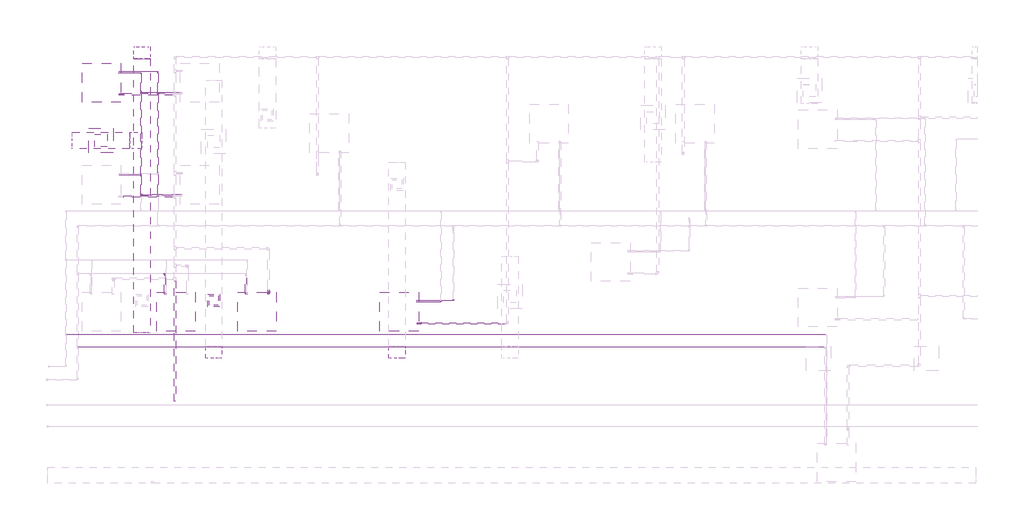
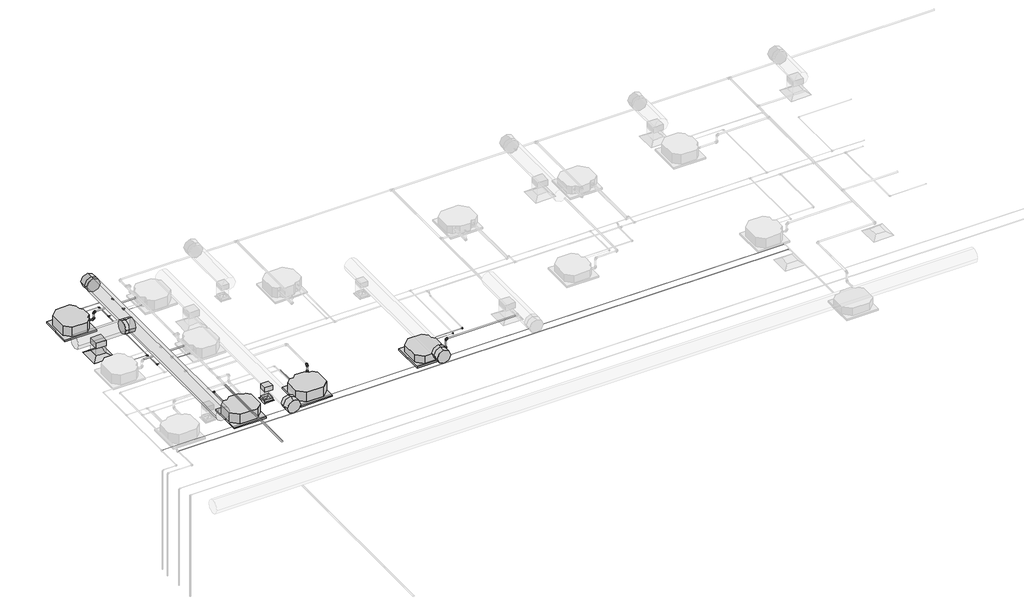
# One storey, part 14 of 22: 30 pipe fittings, 27 pipe segments, 6 duct fittings, 4 duct segments, 4 proxies, 2 air terminals.
"""IFC4 building model written with IfcOpenShell, lengths in millimetres."""

from ifc_helpers import new_model, si_unit, point, frame, frame_2d, origin, place, context, project, spatial, polyline, circle_curve, trimmed, segment, composite_curve, outline, extrude, transform, mapped, element, save
from components import air_terminal_ff221211, sdq3535_a75e83f7, mechanical_equipment_77aa587a, mechanical_equipment_53173f38, duct_fitting_570af4ff, duct_fitting_2eb95573, duct_fitting_f399081e, duct_fitting_95c1ddea, pipe_fitting_144f4440, pipe_fitting_c900cfc2, pipe_fitting_16c020f5, pipe_fitting_afe73776, pipe_fitting_09966660, pipe_fitting_64d0e8e9, pipe_fitting_501e5992, pipe_fitting_59d1f3e3, pipe_fitting_648138cd, pipe_fitting_58ab9b66, pipe_fitting_da16c1b3, pipe_fitting_af483176, pipe_fitting_5a6d96d3

model = new_model("IFC4")

# Units and contexts
model_context = context("Model", 3, world=origin())
ifc_project = project(units=[si_unit("LENGTHUNIT", "METRE", prefix="MILLI")], contexts=[model_context])

# Site, building, storey
site = spatial("IfcSite", under=ifc_project)
building = spatial("IfcBuilding", under=site)
storey = spatial("IfcBuildingStorey", under=building, Name="Nível 2", Elevation=3880.0)

# Air terminals
placement = place(None, origin())
air_terminal_shape = air_terminal_ff221211(model_context)
element("IfcAirTerminal", 1, ObjectType="M_Difusor de retorno : 600 x 600 Face 300 x 300 Conexão", at=placement, inside=storey, context=model_context, shape_type="MappedRepresentation", body=[
    mapped(air_terminal_shape, transform((-1510.2071407, 7465.213936, 6880.0), x_axis=(0.0, 1.0, 0.0), y_axis=(-1.0, 0.0, 0.0), z_axis=(0.0, 0.0, 1.0))),
])
sdq3535_shape = sdq3535_a75e83f7(model_context)
element("IfcAirTerminal", 2, ObjectType="11 - Difusor Quadrado : SDQ3535", at=placement, inside=storey, context=model_context, shape_type="MappedRepresentation", body=[
    mapped(sdq3535_shape, transform((1245.4274207, 3554.0761866, 6880.0), x_axis=(1.0, 0.0, 0.0), y_axis=(0.0, 1.0, 0.0), z_axis=(0.0, 0.0, 1.0))),
])

# Proxies
mechanical_equipment_shape = mechanical_equipment_77aa587a(model_context)
element("IfcBuildingElementProxy", 3, Name="Midea_VRF_Indoor_4-way Cassette_MI-56(71,80)Q4_DHN1-D (2nd DC) : MI2-71Q4DHN1", ObjectType="Midea_VRF_Indoor_4-way Cassette_MI-56(71,80)Q4_DHN1-D (2nd DC) : MI2-71Q4DHN1", at=placement, inside=storey, context=model_context, shape_type="MappedRepresentation", body=[
    mapped(mechanical_equipment_shape, transform((5779.8254008, 3280.8653729, 6880.0), x_axis=(1.0, 0.0, 0.0), y_axis=(0.0, 1.0, 0.0), z_axis=(0.0, 0.0, 1.0))),
])
mechanical_equipment_2_shape = mechanical_equipment_53173f38(model_context)
element("IfcBuildingElementProxy", 4, Name="Midea_VRF_Indoor_4-way Cassette_MI-90(100,112,140)Q4_DHN1-D (2nd DC) : MI2-140Q4DHN1", ObjectType="Midea_VRF_Indoor_4-way Cassette_MI-90(100,112,140)Q4_DHN1-D (2nd DC) : MI2-140Q4DHN1", at=placement, inside=storey, context=model_context, shape_type="MappedRepresentation", body=[
    mapped(mechanical_equipment_2_shape, transform((324.1415592, 3280.8653729, 6880.0), x_axis=(0.0, 1.0, 0.0), y_axis=(-1.0, 0.0, 0.0), z_axis=(0.0, 0.0, 1.0))),
])
element("IfcBuildingElementProxy", 5, Name="Midea_VRF_Indoor_4-way Cassette_MI-90(100,112,140)Q4_DHN1-D (2nd DC) : MI2-140Q4DHN1", ObjectType="Midea_VRF_Indoor_4-way Cassette_MI-90(100,112,140)Q4_DHN1-D (2nd DC) : MI2-140Q4DHN1", at=placement, inside=storey, context=model_context, shape_type="MappedRepresentation", body=[
    mapped(mechanical_equipment_2_shape, transform((2304.1415592, 3280.8653729, 6880.0), x_axis=(0.0, 1.0, 0.0), y_axis=(-1.0, 0.0, 0.0), z_axis=(0.0, 0.0, 1.0))),
])
element("IfcBuildingElementProxy", 6, Name="Midea_VRF_Indoor_4-way Cassette_MI-90(100,112,140)Q4_DHN1-D (2nd DC) : MI2-140Q4DHN1", ObjectType="Midea_VRF_Indoor_4-way Cassette_MI-90(100,112,140)Q4_DHN1-D (2nd DC) : MI2-140Q4DHN1", at=placement, inside=storey, context=model_context, shape_type="MappedRepresentation", body=[
    mapped(mechanical_equipment_2_shape, transform((-1495.8584408, 8880.8653729, 6880.0), x_axis=(1.0, 0.0, 0.0), y_axis=(0.0, 1.0, 0.0), z_axis=(0.0, 0.0, 1.0))),
])

# Duct fittings
duct_fitting_shape = duct_fitting_570af4ff(model_context)
element("IfcDuctFitting", 7, ObjectType="M_Encaixe de duto retangular : Padrão", at=placement, inside=storey, context=model_context, shape_type="MappedRepresentation", body=[
    mapped(duct_fitting_shape, transform((1245.4274207, 3554.0761866, 7301.0), x_axis=(0.0, 0.0, -1.0), y_axis=(0.0, -1.0, 0.0), z_axis=(-1.0, 0.0, 0.0))),
])
duct_fitting_2_shape = duct_fitting_2eb95573(model_context)
element("IfcDuctFitting", 8, ObjectType="M_Encaixe de duto redondo : Padrão", at=placement, inside=storey, context=model_context, shape_type="MappedRepresentation", body=[
    mapped(duct_fitting_2_shape, transform((-509.4071407, 9569.8368648, 7501.0), x_axis=(0.0, -1.0, 0.0), y_axis=(-1.0, 0.0, 0.0), z_axis=(0.0, 0.0, -1.0))),
])
duct_fitting_3_shape = duct_fitting_f399081e(model_context)
element("IfcDuctFitting", 9, ObjectType="M_Encaixe de duto redondo : Padrão", at=placement, inside=storey, context=model_context, shape_type="MappedRepresentation", body=[
    mapped(duct_fitting_3_shape, transform((5726.1234834, 2337.3539749, 7501.0), x_axis=(0.0, 1.0, 0.0), y_axis=(1.0, 0.0, 0.0), z_axis=(0.0, 0.0, -1.0))),
])
element("IfcDuctFitting", 10, ObjectType="M_Encaixe de duto redondo : Padrão", at=placement, inside=storey, context=model_context, shape_type="MappedRepresentation", body=[
    mapped(duct_fitting_3_shape, transform((1245.4274207, 2337.3539749, 7501.0), x_axis=(0.0, 1.0, 0.0), y_axis=(1.0, 0.0, 0.0), z_axis=(0.0, 0.0, -1.0))),
])
element("IfcDuctFitting", 11, ObjectType="M_Encaixe de duto redondo : Padrão", at=placement, inside=storey, context=model_context, shape_type="MappedRepresentation", body=[
    mapped(duct_fitting_3_shape, transform((-709.4071407, 7465.213936, 7501.0), x_axis=(-1.0, 0.0, 0.0), y_axis=(0.0, 1.0, 0.0), z_axis=(0.0, 0.0, -1.0))),
])
duct_fitting_4_shape = duct_fitting_95c1ddea(model_context)
element("IfcDuctFitting", 12, ObjectType="M_Encaixe de duto retangular : Padrão", at=placement, inside=storey, context=model_context, shape_type="MappedRepresentation", body=[
    mapped(duct_fitting_4_shape, transform((-1510.2071407, 7465.213936, 7301.0), x_axis=(0.0, 0.0, -1.0), y_axis=(1.0, 0.0, 0.0), z_axis=(0.0, -1.0, 0.0))),
])

# Duct segments
element("IfcDuctSegment", 13, ObjectType="Torneiras / Raio curto", at=placement, inside=storey, context=model_context, shape_type="SweptSolid", body=[
    extrude(outline(composite_curve([segment(trimmed(circle_curve(frame_2d((7501.0, -509.4071407)), 200.0), [point((7501.0, -709.4071407))], [point((7301.0, -509.4071407))], False, "CARTESIAN"), True, "CONTINUOUS"), segment(trimmed(circle_curve(frame_2d((7501.0, -509.4071407)), 200.0), [point((7301.0, -509.4071407))], [point((7501.0, -309.4071407))], False, "CARTESIAN"), True, "CONTINUOUS"), segment(trimmed(circle_curve(frame_2d((7501.0, -509.4071407)), 200.0), [point((7501.0, -309.4071407))], [point((7701.0, -509.4071407))], False, "CARTESIAN"), True, "CONTINUOUS"), segment(trimmed(circle_curve(frame_2d((7501.0, -509.4071407)), 200.0), [point((7701.0, -509.4071407))], [point((7501.0, -709.4071407))], False, "CARTESIAN"), True, "CONTINUOUS")], self_intersect=False)), frame((0.0, 2769.8368648, 0.0), z_axis=(0.0, 1.0, 0.0), x_axis=(0.0, 0.0, 1.0)), (0.0, 0.0, 1.0), 6698.4),
])
element("IfcDuctSegment", 14, ObjectType="Raios cotovelos / torneiras", at=placement, inside=storey, context=model_context, shape_type="SweptSolid", body=[
    extrude(outline(polyline([(1357.9274207, 3666.5761866), (1357.9274207, 3441.5761866), (1132.9274207, 3441.5761866), (1132.9274207, 3666.5761866), (1357.9274207, 3666.5761866)])), frame((0.0, 0.0, 6885.0), z_axis=(0.0, 0.0, 1.0), x_axis=(1.0, 0.0, 0.0)), (0.0, 0.0, 1.0), 314.4),
])
element("IfcDuctSegment", 15, ObjectType="Torneiras / Raio curto", at=placement, inside=storey, context=model_context, shape_type="SweptSolid", body=[
    extrude(outline(composite_curve([segment(trimmed(circle_curve(frame_2d((7465.213936, 7501.0)), 200.0), [point((7665.213936, 7501.0))], [point((7465.213936, 7301.0))], False, "CARTESIAN"), True, "CONTINUOUS"), segment(trimmed(circle_curve(frame_2d((7465.213936, 7501.0)), 200.0), [point((7465.213936, 7301.0))], [point((7265.213936, 7501.0))], False, "CARTESIAN"), True, "CONTINUOUS"), segment(trimmed(circle_curve(frame_2d((7465.213936, 7501.0)), 200.0), [point((7265.213936, 7501.0))], [point((7465.213936, 7701.0))], False, "CARTESIAN"), True, "CONTINUOUS"), segment(trimmed(circle_curve(frame_2d((7465.213936, 7501.0)), 200.0), [point((7465.213936, 7701.0))], [point((7665.213936, 7501.0))], False, "CARTESIAN"), True, "CONTINUOUS")], self_intersect=False)), frame((-2209.4071407, 0.0, 0.0), z_axis=(1.0, 0.0, 0.0), x_axis=(0.0, 1.0, 0.0)), (0.0, 0.0, 1.0), 1398.4),
])
element("IfcDuctSegment", 16, ObjectType="Raios cotovelos / torneiras", at=placement, inside=storey, context=model_context, shape_type="SweptSolid", body=[
    extrude(outline(polyline([(-1660.2071407, 7615.213936), (-1360.2071407, 7615.213936), (-1360.2071407, 7315.213936), (-1660.2071407, 7315.213936), (-1660.2071407, 7615.213936)])), frame((0.0, 0.0, 6981.6), z_axis=(0.0, 0.0, 1.0), x_axis=(1.0, 0.0, 0.0)), (0.0, 0.0, 1.0), 217.8),
])

# Pipe fittings
pipe_fitting_shape = pipe_fitting_144f4440(model_context)
element("IfcPipeFitting", 17, ObjectType="Cotovelo - PVC - CW : Padrão", at=placement, inside=storey, context=model_context, shape_type="MappedRepresentation", body=[
    mapped(pipe_fitting_shape, transform((6275.2251483, 2995.8653729, 7062.3085101), x_axis=(1.0, 0.0, 0.0), y_axis=(0.0, 0.0, 1.0), z_axis=(0.0, -1.0, 0.0))),
])
element("IfcPipeFitting", 18, ObjectType="Cotovelo - PVC - CW : Padrão", at=placement, inside=storey, context=model_context, shape_type="MappedRepresentation", body=[
    mapped(pipe_fitting_shape, transform((6275.2251483, 2995.8653729, 7360.6313654), x_axis=(0.0, 0.0, 1.0), y_axis=(1.0, 0.0, 0.0), z_axis=(0.0, 1.0, 0.0))),
])
element("IfcPipeFitting", 19, ObjectType="Cotovelo - PVC - CW : Padrão", at=placement, inside=storey, context=model_context, shape_type="MappedRepresentation", body=[
    mapped(pipe_fitting_shape, transform((-1000.4586934, 8595.8653729, 7132.3085101), x_axis=(1.0, 0.0, 0.0), y_axis=(0.0, 0.0, 1.0), z_axis=(0.0, -1.0, 0.0))),
])
element("IfcPipeFitting", 20, ObjectType="Cotovelo - PVC - CW : Padrão", at=placement, inside=storey, context=model_context, shape_type="MappedRepresentation", body=[
    mapped(pipe_fitting_shape, transform((-1000.4586934, 8595.8653729, 7360.6313654), x_axis=(0.0, 0.0, 1.0), y_axis=(1.0, 0.0, 0.0), z_axis=(0.0, 1.0, 0.0))),
])
element("IfcPipeFitting", 21, ObjectType="Cotovelo - PVC - CW : Padrão", at=placement, inside=storey, context=model_context, shape_type="MappedRepresentation", body=[
    mapped(pipe_fitting_shape, transform((2589.1415592, 3776.2651204, 7132.3085101), x_axis=(0.0, 1.0, 0.0), y_axis=(0.0, 0.0, 1.0), z_axis=(1.0, 0.0, 0.0))),
])
element("IfcPipeFitting", 22, ObjectType="Cotovelo - PVC - CW : Padrão", at=placement, inside=storey, context=model_context, shape_type="MappedRepresentation", body=[
    mapped(pipe_fitting_shape, transform((2589.1415592, 3776.2651204, 7360.6313654), x_axis=(0.0, 0.0, 1.0), y_axis=(0.0, 1.0, 0.0), z_axis=(-1.0, 0.0, 0.0))),
])
pipe_fitting_2_shape = pipe_fitting_c900cfc2(model_context)
element("IfcPipeFitting", 23, ObjectType="Bucha de redução reta - Soldada - CU : Padrão", at=placement, inside=storey, context=model_context, shape_type="MappedRepresentation", body=[
    mapped(pipe_fitting_2_shape, transform((6204.8254008, 3554.0761866, 7062.3085101), x_axis=(1.0, 0.0, 0.0), y_axis=(0.0, 1.0, 0.0), z_axis=(0.0, 0.0, 1.0))),
])
element("IfcPipeFitting", 24, ObjectType="Bucha de redução reta - Soldada - CU : Padrão", at=placement, inside=storey, context=model_context, shape_type="MappedRepresentation", body=[
    mapped(pipe_fitting_2_shape, transform((-1070.8584408, 9154.0761866, 7132.3085101), x_axis=(1.0, 0.0, 0.0), y_axis=(0.0, 1.0, 0.0), z_axis=(0.0, 0.0, 1.0))),
])
element("IfcPipeFitting", 25, ObjectType="Bucha de redução reta - Soldada - CU : Padrão", at=placement, inside=storey, context=model_context, shape_type="MappedRepresentation", body=[
    mapped(pipe_fitting_2_shape, transform((2030.9307455, 3705.8653729, 7132.3085101), x_axis=(0.0, 1.0, 0.0), y_axis=(-1.0, 0.0, 0.0), z_axis=(0.0, 0.0, 1.0))),
])
pipe_fitting_3_shape = pipe_fitting_16c020f5(model_context)
element("IfcPipeFitting", 26, ObjectType="Cotovelo - Soldado - CU : Padrão", at=placement, inside=storey, context=model_context, shape_type="MappedRepresentation", body=[
    mapped(pipe_fitting_3_shape, transform((-114.8972501, 9154.0761866, 7132.3), x_axis=(0.0, 1.0, 0.0), y_axis=(-0.9999999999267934, 0.0, 1.2100135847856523e-05), z_axis=(1.2100135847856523e-05, 0.0, 0.9999999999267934))),
])
element("IfcPipeFitting", 27, ObjectType="Cotovelo - Soldado - CU : Padrão", at=placement, inside=storey, context=model_context, shape_type="MappedRepresentation", body=[
    mapped(pipe_fitting_3_shape, transform((7104.8254008, 3554.0761866, 7062.3), x_axis=(0.9999999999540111, 0.0, -9.590509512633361e-06), y_axis=(0.0, 1.0000000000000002, 0.0), z_axis=(9.590509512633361e-06, 0.0, 0.9999999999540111))),
])
pipe_fitting_4_shape = pipe_fitting_afe73776(model_context)
element("IfcPipeFitting", 28, ObjectType="Bucha de redução reta - Soldada - CU : Padrão", at=placement, inside=storey, context=model_context, shape_type="MappedRepresentation", body=[
    mapped(pipe_fitting_4_shape, transform((-84.7367501, 8607.6545593, 7132.3003089), x_axis=(0.9999999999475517, 0.0, 1.0241909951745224e-05), y_axis=(0.0, 1.0000000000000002, 0.0), z_axis=(-1.0241909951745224e-05, 0.0, 0.9999999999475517))),
])
element("IfcPipeFitting", 29, ObjectType="Bucha de redução reta - Soldada - CU : Padrão", at=placement, inside=storey, context=model_context, shape_type="MappedRepresentation", body=[
    mapped(pipe_fitting_4_shape, transform((50.9307455, 4182.6905207, 7132.3003013), x_axis=(0.0, -0.9999999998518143, 1.721544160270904e-05), y_axis=(1.0, 0.0, 0.0), z_axis=(0.0, 1.721544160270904e-05, 0.9999999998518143))),
])
pipe_fitting_5_shape = pipe_fitting_09966660(model_context)
element("IfcPipeFitting", 30, ObjectType="Tê - Soldado - CU : Padrão", at=placement, inside=storey, context=model_context, shape_type="MappedRepresentation", body=[
    mapped(pipe_fitting_5_shape, transform((-114.8972501, 8607.6545593, 7132.3), x_axis=(0.0, -1.0, 0.0), y_axis=(-0.9999999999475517, 0.0, -1.0241909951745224e-05), z_axis=(1.0241909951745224e-05, 0.0, -0.9999999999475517))),
])
element("IfcPipeFitting", 31, ObjectType="Tê - Soldado - CU : Padrão", at=placement, inside=storey, context=model_context, shape_type="MappedRepresentation", body=[
    mapped(pipe_fitting_5_shape, transform((50.9307455, 4212.8510207, 7132.2997821), x_axis=(-1.0, 0.0, 0.0), y_axis=(0.0, 0.9999999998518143, -1.721544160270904e-05), z_axis=(0.0, -1.721544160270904e-05, -0.9999999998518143))),
])
pipe_fitting_6_shape = pipe_fitting_64d0e8e9(model_context)
element("IfcPipeFitting", 32, ObjectType="Bucha de redução reta - Soldada - CU : Padrão", at=placement, inside=storey, context=model_context, shape_type="MappedRepresentation", body=[
    mapped(pipe_fitting_6_shape, transform((-114.8972501, 9125.0975866, 7132.3), x_axis=(0.0, -1.0, 0.0), y_axis=(0.9999999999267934, 0.0, -1.2100135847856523e-05), z_axis=(1.2100135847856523e-05, 0.0, 0.9999999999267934))),
])
pipe_fitting_7_shape = pipe_fitting_501e5992(model_context)
element("IfcPipeFitting", 33, ObjectType="Bucha de redução reta - Soldada - CU : Padrão", at=placement, inside=storey, context=model_context, shape_type="MappedRepresentation", body=[
    mapped(pipe_fitting_7_shape, transform((50.9307455, 3718.5242729, 7132.3082921), x_axis=(0.0, -0.9999999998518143, 1.7215441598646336e-05), y_axis=(1.0, 0.0, 0.0), z_axis=(0.0, 1.7215441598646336e-05, 0.9999999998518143))),
])
pipe_fitting_8_shape = pipe_fitting_59d1f3e3(model_context)
element("IfcPipeFitting", 34, ObjectType="Bucha de redução reta - Soldada - CU : Padrão", at=placement, inside=storey, context=model_context, shape_type="MappedRepresentation", body=[
    mapped(pipe_fitting_8_shape, transform((6204.8254008, 3520.2737448, 7026.8446487), x_axis=(1.0, 0.0, 0.0), y_axis=(0.0, 1.0, 0.0), z_axis=(0.0, 0.0, 1.0))),
])
element("IfcPipeFitting", 35, ObjectType="Bucha de redução reta - Soldada - CU : Padrão", at=placement, inside=storey, context=model_context, shape_type="MappedRepresentation", body=[
    mapped(pipe_fitting_8_shape, transform((-1070.8584408, 9120.2737448, 7026.8446487), x_axis=(1.0, 0.0, 0.0), y_axis=(0.0, 1.0, 0.0), z_axis=(0.0, 0.0, 1.0))),
])
pipe_fitting_9_shape = pipe_fitting_648138cd(model_context)
element("IfcPipeFitting", 36, ObjectType="Cotovelo - Soldado - CU : Padrão", at=placement, inside=storey, context=model_context, shape_type="MappedRepresentation", body=[
    mapped(pipe_fitting_9_shape, transform((6804.8254008, 3520.2737448, 7026.8446487), x_axis=(1.0, 0.0, 0.0), y_axis=(0.0, 1.0, 0.0), z_axis=(0.0, 0.0, 1.0))),
])
element("IfcPipeFitting", 37, ObjectType="Cotovelo - Soldado - CU : Padrão", at=placement, inside=storey, context=model_context, shape_type="MappedRepresentation", body=[
    mapped(pipe_fitting_9_shape, transform((-534.8999659, 9120.2737448, 7026.8446487), x_axis=(0.0, 1.0, 0.0), y_axis=(-1.0, 0.0, 0.0), z_axis=(0.0, 0.0, 1.0))),
])
pipe_fitting_10_shape = pipe_fitting_58ab9b66(model_context)
element("IfcPipeFitting", 38, ObjectType="Bucha de redução reta - Soldada - CU : Padrão", at=placement, inside=storey, context=model_context, shape_type="MappedRepresentation", body=[
    mapped(pipe_fitting_10_shape, transform((2064.7331873, 3715.5397729, 7026.8446487), x_axis=(0.0, -1.0, 0.0), y_axis=(1.0, 0.0, 0.0), z_axis=(0.0, 0.0, 1.0))),
])
element("IfcPipeFitting", 39, ObjectType="Bucha de redução reta - Soldada - CU : Padrão", at=placement, inside=storey, context=model_context, shape_type="MappedRepresentation", body=[
    mapped(pipe_fitting_10_shape, transform((84.7331873, 3715.5397729, 7026.8446487), x_axis=(0.0, -1.0, 0.0), y_axis=(1.0, 0.0, 0.0), z_axis=(0.0, 0.0, 1.0))),
])
pipe_fitting_11_shape = pipe_fitting_da16c1b3(model_context)
element("IfcPipeFitting", 40, ObjectType="Tê - Soldado - CU : Padrão", at=placement, inside=storey, context=model_context, shape_type="MappedRepresentation", body=[
    mapped(pipe_fitting_11_shape, transform((-534.8999659, 6141.4570011, 7026.8446487), x_axis=(0.0, -1.0, 0.0), y_axis=(-1.0, 0.0, 0.0), z_axis=(0.0, 0.0, -1.0))),
])
element("IfcPipeFitting", 41, ObjectType="Tê - Soldado - CU : Padrão", at=placement, inside=storey, context=model_context, shape_type="MappedRepresentation", body=[
    mapped(pipe_fitting_11_shape, transform((-534.8999659, 8641.4570011, 7026.8446487), x_axis=(0.0, -1.0, 0.0), y_axis=(-1.0, 0.0, 0.0), z_axis=(0.0, 0.0, -1.0))),
])
element("IfcPipeFitting", 42, ObjectType="Tê - Soldado - CU : Padrão", at=placement, inside=storey, context=model_context, shape_type="MappedRepresentation", body=[
    mapped(pipe_fitting_11_shape, transform((-534.8999659, 6620.2737448, 7026.8446487), x_axis=(0.0, -1.0, 0.0), y_axis=(1.0, 0.0, 0.0), z_axis=(0.0, 0.0, 1.0))),
])
pipe_fitting_12_shape = pipe_fitting_af483176(model_context)
element("IfcPipeFitting", 43, ObjectType="Bucha de redução reta - Soldada - CU : Padrão", at=placement, inside=storey, context=model_context, shape_type="MappedRepresentation", body=[
    mapped(pipe_fitting_12_shape, transform((-534.8999659, 9096.2481448, 7026.8446487), x_axis=(0.0, -1.0, 0.0), y_axis=(1.0, 0.0, 0.0), z_axis=(0.0, 0.0, 1.0))),
])
pipe_fitting_13_shape = pipe_fitting_5a6d96d3(model_context)
element("IfcPipeFitting", 44, ObjectType="Bucha de redução reta - Soldada - CU : Padrão", at=placement, inside=storey, context=model_context, shape_type="MappedRepresentation", body=[
    mapped(pipe_fitting_13_shape, transform((-509.8829659, 6141.4570011, 7026.8446487), x_axis=(1.0, 0.0, 0.0), y_axis=(0.0, 1.0, 0.0), z_axis=(0.0, 0.0, 1.0))),
])
element("IfcPipeFitting", 45, ObjectType="Bucha de redução reta - Soldada - CU : Padrão", at=placement, inside=storey, context=model_context, shape_type="MappedRepresentation", body=[
    mapped(pipe_fitting_13_shape, transform((-509.8829659, 8641.4570011, 7026.8446487), x_axis=(1.0, 0.0, 0.0), y_axis=(0.0, 1.0, 0.0), z_axis=(0.0, 0.0, 1.0))),
])
element("IfcPipeFitting", 46, ObjectType="Bucha de redução reta - Soldada - CU : Padrão", at=placement, inside=storey, context=model_context, shape_type="MappedRepresentation", body=[
    mapped(pipe_fitting_13_shape, transform((-559.9169659, 6620.2737448, 7026.8446487), x_axis=(-1.0, 0.0, 0.0), y_axis=(0.0, -1.0, 0.0), z_axis=(0.0, 0.0, 1.0))),
])

# Pipe segments
element("IfcPipeSegment", 47, ObjectType="Tubos de cobre HVAC", at=placement, inside=storey, context=model_context, shape_type="SweptSolid", body=[
    extrude(outline(composite_curve([segment(trimmed(circle_curve(frame_2d((0.0, -7.935)), 7.935), [point((-7.935, -7.935))], [point((0.0, 0.0))], False, "CARTESIAN"), True, "CONTINUOUS"), segment(trimmed(circle_curve(frame_2d((0.0, -7.935)), 7.935), [point((0.0, 0.0))], [point((7.935, -7.935))], False, "CARTESIAN"), True, "CONTINUOUS"), segment(trimmed(circle_curve(frame_2d((0.0, -7.935)), 7.935), [point((7.935, -7.935))], [point((0.0, -15.87))], False, "CARTESIAN"), True, "CONTINUOUS"), segment(trimmed(circle_curve(frame_2d((0.0, -7.935)), 7.935), [point((0.0, -15.87))], [point((-7.935, -7.935))], False, "CARTESIAN"), True, "CONTINUOUS")], self_intersect=False)), frame((7075.8467247, 3554.0761866, 7054.3652779), z_axis=(-0.9999999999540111, 0.0, 9.590509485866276e-06), x_axis=(0.0, 1.0, 0.0)), (0.0, 0.0, 1.0), 858.3625),
])
element("IfcPipeSegment", 48, ObjectType="Tubos de cobre HVAC", at=placement, inside=storey, context=model_context, shape_type="SweptSolid", body=[
    extrude(outline(composite_curve([segment(trimmed(circle_curve(frame_2d((7132.3, -114.8972501)), 9.525), [point((7132.3, -105.3722501))], [point((7141.825, -114.8972501))], False, "CARTESIAN"), True, "CONTINUOUS"), segment(trimmed(circle_curve(frame_2d((7132.3, -114.8972501)), 9.525), [point((7141.825, -114.8972501))], [point((7132.3, -124.4222501))], False, "CARTESIAN"), True, "CONTINUOUS"), segment(trimmed(circle_curve(frame_2d((7132.3, -114.8972501)), 9.525), [point((7132.3, -124.4222501))], [point((7122.775, -114.8972501))], False, "CARTESIAN"), True, "CONTINUOUS"), segment(trimmed(circle_curve(frame_2d((7132.3, -114.8972501)), 9.525), [point((7122.775, -114.8972501))], [point((7132.3, -105.3722501))], False, "CARTESIAN"), True, "CONTINUOUS")], self_intersect=False)), frame((0.0, 8637.8498093, 0.0), z_axis=(0.0, 1.0, 0.0), x_axis=(0.0, 0.0, 1.0)), (0.0, 0.0, 1.0), 474.5888773),
])
element("IfcPipeSegment", 49, ObjectType="Tubos de cobre HVAC", at=placement, inside=storey, context=model_context, shape_type="SweptSolid", body=[
    extrude(outline(composite_curve([segment(trimmed(circle_curve(frame_2d((7132.3, -114.8972501)), 9.525), [point((7132.3, -105.3722501))], [point((7141.825, -114.8972501))], False, "CARTESIAN"), True, "CONTINUOUS"), segment(trimmed(circle_curve(frame_2d((7132.3, -114.8972501)), 9.525), [point((7141.825, -114.8972501))], [point((7132.3, -124.4222501))], False, "CARTESIAN"), True, "CONTINUOUS"), segment(trimmed(circle_curve(frame_2d((7132.3, -114.8972501)), 9.525), [point((7132.3, -124.4222501))], [point((7122.775, -114.8972501))], False, "CARTESIAN"), True, "CONTINUOUS"), segment(trimmed(circle_curve(frame_2d((7132.3, -114.8972501)), 9.525), [point((7122.775, -114.8972501))], [point((7132.3, -105.3722501))], False, "CARTESIAN"), True, "CONTINUOUS")], self_intersect=False)), frame((0.0, 6137.8498093, 0.0), z_axis=(0.0, 1.0, 0.0), x_axis=(0.0, 0.0, 1.0)), (0.0, 0.0, 1.0), 486.0311273),
])
element("IfcPipeSegment", 50, ObjectType="Tubos de cobre HVAC", at=placement, inside=storey, context=model_context, shape_type="SweptSolid", body=[
    extrude(outline(composite_curve([segment(trimmed(circle_curve(frame_2d((0.0, -7.935)), 7.935), [point((-7.935, -7.935))], [point((0.0, 0.0))], False, "CARTESIAN"), True, "CONTINUOUS"), segment(trimmed(circle_curve(frame_2d((0.0, -7.935)), 7.935), [point((0.0, 0.0))], [point((7.935, -7.935))], False, "CARTESIAN"), True, "CONTINUOUS"), segment(trimmed(circle_curve(frame_2d((0.0, -7.935)), 7.935), [point((7.935, -7.935))], [point((0.0, -15.87))], False, "CARTESIAN"), True, "CONTINUOUS"), segment(trimmed(circle_curve(frame_2d((0.0, -7.935)), 7.935), [point((0.0, -15.87))], [point((-7.935, -7.935))], False, "CARTESIAN"), True, "CONTINUOUS")], self_intersect=False)), frame((-143.8759209, 9154.0761866, 7124.3653506), z_axis=(-0.9999999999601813, 0.0, 8.923982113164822e-06), x_axis=(0.0, 1.0, 0.0)), (0.0, 0.0, 1.0), 914.3236908),
])
element("IfcPipeSegment", 51, ObjectType="Tubos de cobre HVAC", at=placement, inside=storey, context=model_context, shape_type="SweptSolid", body=[
    extrude(outline(composite_curve([segment(trimmed(circle_curve(frame_2d((7132.3, -114.8972501)), 9.525), [point((7132.3, -105.3722501))], [point((7141.825, -114.8972501))], False, "CARTESIAN"), True, "CONTINUOUS"), segment(trimmed(circle_curve(frame_2d((7132.3, -114.8972501)), 9.525), [point((7141.825, -114.8972501))], [point((7132.3, -124.4222501))], False, "CARTESIAN"), True, "CONTINUOUS"), segment(trimmed(circle_curve(frame_2d((7132.3, -114.8972501)), 9.525), [point((7132.3, -124.4222501))], [point((7122.775, -114.8972501))], False, "CARTESIAN"), True, "CONTINUOUS"), segment(trimmed(circle_curve(frame_2d((7132.3, -114.8972501)), 9.525), [point((7122.775, -114.8972501))], [point((7132.3, -105.3722501))], False, "CARTESIAN"), True, "CONTINUOUS")], self_intersect=False)), frame((0.0, 6684.2714366, 0.0), z_axis=(0.0, 1.0, 0.0), x_axis=(0.0, 0.0, 1.0)), (0.0, 0.0, 1.0), 1893.1878727),
])
element("IfcPipeSegment", 52, ObjectType="Tubos de cobre HVAC", at=placement, inside=storey, context=model_context, shape_type="SweptSolid", body=[
    extrude(outline(composite_curve([segment(trimmed(circle_curve(frame_2d((0.0, -7.935)), 7.935), [point((0.0, -15.87))], [point((-7.935, -7.935))], False, "CARTESIAN"), True, "CONTINUOUS"), segment(trimmed(circle_curve(frame_2d((0.0, -7.935)), 7.935), [point((-7.935, -7.935))], [point((0.0, 0.0))], False, "CARTESIAN"), True, "CONTINUOUS"), segment(trimmed(circle_curve(frame_2d((0.0, -7.935)), 7.935), [point((0.0, 0.0))], [point((7.935, -7.935))], False, "CARTESIAN"), True, "CONTINUOUS"), segment(trimmed(circle_curve(frame_2d((0.0, -7.935)), 7.935), [point((7.935, -7.935))], [point((0.0, -15.87))], False, "CARTESIAN"), True, "CONTINUOUS")], self_intersect=False)), frame((2022.9957455, 4183.8724207, 7132.3004989), z_axis=(0.0, -0.9999999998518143, 1.7215441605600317e-05), x_axis=(0.0, 1.7215441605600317e-05, 0.9999999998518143)), (0.0, 0.0, 1.0), 465.3481478),
])
element("IfcPipeSegment", 53, ObjectType="Tubos de cobre HVAC", at=placement, inside=storey, context=model_context, shape_type="SweptSolid", body=[
    extrude(outline(composite_curve([segment(trimmed(circle_curve(frame_2d((0.0, 7.935)), 7.935), [point((0.0, 0.0))], [point((-7.935, 7.935))], False, "CARTESIAN"), True, "CONTINUOUS"), segment(trimmed(circle_curve(frame_2d((0.0, 7.935)), 7.935), [point((-7.935, 7.935))], [point((0.0, 15.87))], False, "CARTESIAN"), True, "CONTINUOUS"), segment(trimmed(circle_curve(frame_2d((0.0, 7.935)), 7.935), [point((0.0, 15.87))], [point((7.935, 7.935))], False, "CARTESIAN"), True, "CONTINUOUS"), segment(trimmed(circle_curve(frame_2d((0.0, 7.935)), 7.935), [point((7.935, 7.935))], [point((0.0, 0.0))], False, "CARTESIAN"), True, "CONTINUOUS")], self_intersect=False)), frame((42.9957455, 4170.0316207, 7132.3005192), z_axis=(0.0, -0.9999999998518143, 1.721544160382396e-05), x_axis=(0.0, -1.721544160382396e-05, -0.9999999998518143)), (0.0, 0.0, 1.0), 451.5073478),
])
element("IfcPipeSegment", 54, ObjectType="Tubos de cobre HVAC", at=placement, inside=storey, context=model_context, shape_type="SweptSolid", body=[
    extrude(outline(composite_curve([segment(trimmed(circle_curve(frame_2d((3520.2737448, 7026.8446487)), 4.76), [point((3515.5137448, 7026.8446487))], [point((3520.2737448, 7031.6046487))], False, "CARTESIAN"), True, "CONTINUOUS"), segment(trimmed(circle_curve(frame_2d((3520.2737448, 7026.8446487)), 4.76), [point((3520.2737448, 7031.6046487))], [point((3525.0337448, 7026.8446487))], False, "CARTESIAN"), True, "CONTINUOUS"), segment(trimmed(circle_curve(frame_2d((3520.2737448, 7026.8446487)), 4.76), [point((3525.0337448, 7026.8446487))], [point((3520.2737448, 7022.0846487))], False, "CARTESIAN"), True, "CONTINUOUS"), segment(trimmed(circle_curve(frame_2d((3520.2737448, 7026.8446487)), 4.76), [point((3520.2737448, 7022.0846487))], [point((3515.5137448, 7026.8446487))], False, "CARTESIAN"), True, "CONTINUOUS")], self_intersect=False)), frame((6214.4998008, 0.0, 0.0), z_axis=(1.0, 0.0, 0.0), x_axis=(0.0, 1.0, 0.0)), (0.0, 0.0, 1.0), 566.3),
])
element("IfcPipeSegment", 55, ObjectType="Tubos de cobre HVAC", at=placement, inside=storey, context=model_context, shape_type="SweptSolid", body=[
    extrude(outline(composite_curve([segment(trimmed(circle_curve(frame_2d((6141.4570011, 7026.8446487)), 4.76), [point((6146.2170011, 7026.8446487))], [point((6141.4570011, 7022.0846487))], False, "CARTESIAN"), True, "CONTINUOUS"), segment(trimmed(circle_curve(frame_2d((6141.4570011, 7026.8446487)), 4.76), [point((6141.4570011, 7022.0846487))], [point((6136.6970011, 7026.8446487))], False, "CARTESIAN"), True, "CONTINUOUS"), segment(trimmed(circle_curve(frame_2d((6141.4570011, 7026.8446487)), 4.76), [point((6136.6970011, 7026.8446487))], [point((6141.4570011, 7031.6046487))], False, "CARTESIAN"), True, "CONTINUOUS"), segment(trimmed(circle_curve(frame_2d((6141.4570011, 7026.8446487)), 4.76), [point((6141.4570011, 7031.6046487))], [point((6146.2170011, 7026.8446487))], False, "CARTESIAN"), True, "CONTINUOUS")], self_intersect=False)), frame((-500.2085659, 0.0, 0.0), z_axis=(1.0, 0.0, 0.0), x_axis=(0.0, 1.0, 0.0)), (0.0, 0.0, 1.0), 969.6757251),
])
element("IfcPipeSegment", 56, ObjectType="Tubos de cobre HVAC", at=placement, inside=storey, context=model_context, shape_type="SweptSolid", body=[
    extrude(outline(composite_curve([segment(trimmed(circle_curve(frame_2d((7026.8446487, -534.8999659)), 6.35), [point((7026.8446487, -528.5499659))], [point((7033.1946487, -534.8999659))], False, "CARTESIAN"), True, "CONTINUOUS"), segment(trimmed(circle_curve(frame_2d((7026.8446487, -534.8999659)), 6.35), [point((7033.1946487, -534.8999659))], [point((7026.8446487, -541.2499659))], False, "CARTESIAN"), True, "CONTINUOUS"), segment(trimmed(circle_curve(frame_2d((7026.8446487, -534.8999659)), 6.35), [point((7026.8446487, -541.2499659))], [point((7020.4946487, -534.8999659))], False, "CARTESIAN"), True, "CONTINUOUS"), segment(trimmed(circle_curve(frame_2d((7026.8446487, -534.8999659)), 6.35), [point((7020.4946487, -534.8999659))], [point((7026.8446487, -528.5499659))], False, "CARTESIAN"), True, "CONTINUOUS")], self_intersect=False)), frame((0.0, 8666.5405011, 0.0), z_axis=(0.0, 1.0, 0.0), x_axis=(0.0, 0.0, 1.0)), (0.0, 0.0, 1.0), 420.0332437),
])
element("IfcPipeSegment", 57, ObjectType="Tubos de cobre HVAC", at=placement, inside=storey, context=model_context, shape_type="SweptSolid", body=[
    extrude(outline(composite_curve([segment(trimmed(circle_curve(frame_2d((8641.4570011, 7026.8446487)), 4.76), [point((8636.6970011, 7026.8446487))], [point((8641.4570011, 7031.6046487))], False, "CARTESIAN"), True, "CONTINUOUS"), segment(trimmed(circle_curve(frame_2d((8641.4570011, 7026.8446487)), 4.76), [point((8641.4570011, 7031.6046487))], [point((8646.2170011, 7026.8446487))], False, "CARTESIAN"), True, "CONTINUOUS"), segment(trimmed(circle_curve(frame_2d((8641.4570011, 7026.8446487)), 4.76), [point((8646.2170011, 7026.8446487))], [point((8641.4570011, 7022.0846487))], False, "CARTESIAN"), True, "CONTINUOUS"), segment(trimmed(circle_curve(frame_2d((8641.4570011, 7026.8446487)), 4.76), [point((8641.4570011, 7022.0846487))], [point((8636.6970011, 7026.8446487))], False, "CARTESIAN"), True, "CONTINUOUS")], self_intersect=False)), frame((-500.2085659, 0.0, 0.0), z_axis=(1.0, 0.0, 0.0), x_axis=(0.0, 1.0, 0.0)), (0.0, 0.0, 1.0), 969.6757251),
])
element("IfcPipeSegment", 58, ObjectType="Tubos de cobre HVAC", at=placement, inside=storey, context=model_context, shape_type="SweptSolid", body=[
    extrude(outline(composite_curve([segment(trimmed(circle_curve(frame_2d((7026.8446487, -534.8999659)), 6.35), [point((7026.8446487, -528.5499659))], [point((7033.1946487, -534.8999659))], False, "CARTESIAN"), True, "CONTINUOUS"), segment(trimmed(circle_curve(frame_2d((7026.8446487, -534.8999659)), 6.35), [point((7033.1946487, -534.8999659))], [point((7026.8446487, -541.2499659))], False, "CARTESIAN"), True, "CONTINUOUS"), segment(trimmed(circle_curve(frame_2d((7026.8446487, -534.8999659)), 6.35), [point((7026.8446487, -541.2499659))], [point((7020.4946487, -534.8999659))], False, "CARTESIAN"), True, "CONTINUOUS"), segment(trimmed(circle_curve(frame_2d((7026.8446487, -534.8999659)), 6.35), [point((7020.4946487, -534.8999659))], [point((7026.8446487, -528.5499659))], False, "CARTESIAN"), True, "CONTINUOUS")], self_intersect=False)), frame((0.0, 6645.3572448, 0.0), z_axis=(0.0, 1.0, 0.0), x_axis=(0.0, 0.0, 1.0)), (0.0, 0.0, 1.0), 1971.0162563),
])
element("IfcPipeSegment", 59, ObjectType="Tubos de cobre HVAC", at=placement, inside=storey, context=model_context, shape_type="SweptSolid", body=[
    extrude(outline(composite_curve([segment(trimmed(circle_curve(frame_2d((9120.2737448, 7026.8446487)), 4.76), [point((9115.5137448, 7026.8446487))], [point((9120.2737448, 7031.6046487))], False, "CARTESIAN"), True, "CONTINUOUS"), segment(trimmed(circle_curve(frame_2d((9120.2737448, 7026.8446487)), 4.76), [point((9120.2737448, 7031.6046487))], [point((9125.0337448, 7026.8446487))], False, "CARTESIAN"), True, "CONTINUOUS"), segment(trimmed(circle_curve(frame_2d((9120.2737448, 7026.8446487)), 4.76), [point((9125.0337448, 7026.8446487))], [point((9120.2737448, 7022.0846487))], False, "CARTESIAN"), True, "CONTINUOUS"), segment(trimmed(circle_curve(frame_2d((9120.2737448, 7026.8446487)), 4.76), [point((9120.2737448, 7022.0846487))], [point((9115.5137448, 7026.8446487))], False, "CARTESIAN"), True, "CONTINUOUS")], self_intersect=False)), frame((-1061.1840408, 0.0, 0.0), z_axis=(1.0, 0.0, 0.0), x_axis=(0.0, 1.0, 0.0)), (0.0, 0.0, 1.0), 502.2584749),
])
element("IfcPipeSegment", 60, ObjectType="Tubos de cobre HVAC", at=placement, inside=storey, context=model_context, shape_type="SweptSolid", body=[
    extrude(outline(composite_curve([segment(trimmed(circle_curve(frame_2d((6620.2737448, 7026.8446487)), 4.76), [point((6625.0337448, 7026.8446487))], [point((6620.2737448, 7022.0846487))], False, "CARTESIAN"), True, "CONTINUOUS"), segment(trimmed(circle_curve(frame_2d((6620.2737448, 7026.8446487)), 4.76), [point((6620.2737448, 7022.0846487))], [point((6615.5137448, 7026.8446487))], False, "CARTESIAN"), True, "CONTINUOUS"), segment(trimmed(circle_curve(frame_2d((6620.2737448, 7026.8446487)), 4.76), [point((6615.5137448, 7026.8446487))], [point((6620.2737448, 7031.6046487))], False, "CARTESIAN"), True, "CONTINUOUS"), segment(trimmed(circle_curve(frame_2d((6620.2737448, 7026.8446487)), 4.76), [point((6620.2737448, 7031.6046487))], [point((6625.0337448, 7026.8446487))], False, "CARTESIAN"), True, "CONTINUOUS")], self_intersect=False)), frame((-1061.1840408, 0.0, 0.0), z_axis=(1.0, 0.0, 0.0), x_axis=(0.0, 1.0, 0.0)), (0.0, 0.0, 1.0), 491.5926749),
])
element("IfcPipeSegment", 61, ObjectType="Tubos de cobre HVAC", at=placement, inside=storey, context=model_context, shape_type="SweptSolid", body=[
    extrude(outline(composite_curve([segment(trimmed(circle_curve(frame_2d((7026.8446487, -534.8999659)), 6.35), [point((7026.8446487, -528.5499659))], [point((7033.1946487, -534.8999659))], False, "CARTESIAN"), True, "CONTINUOUS"), segment(trimmed(circle_curve(frame_2d((7026.8446487, -534.8999659)), 6.35), [point((7033.1946487, -534.8999659))], [point((7026.8446487, -541.2499659))], False, "CARTESIAN"), True, "CONTINUOUS"), segment(trimmed(circle_curve(frame_2d((7026.8446487, -534.8999659)), 6.35), [point((7026.8446487, -541.2499659))], [point((7020.4946487, -534.8999659))], False, "CARTESIAN"), True, "CONTINUOUS"), segment(trimmed(circle_curve(frame_2d((7026.8446487, -534.8999659)), 6.35), [point((7020.4946487, -534.8999659))], [point((7026.8446487, -528.5499659))], False, "CARTESIAN"), True, "CONTINUOUS")], self_intersect=False)), frame((0.0, 6166.5405011, 0.0), z_axis=(0.0, 1.0, 0.0), x_axis=(0.0, 0.0, 1.0)), (0.0, 0.0, 1.0), 428.6497437),
])
element("IfcPipeSegment", 62, ObjectType="Plástico", at=placement, inside=storey, context=model_context, shape_type="SweptSolid", body=[
    extrude(outline(composite_curve([segment(trimmed(circle_curve(frame_2d((2995.8653729, 7360.6313654)), 20.0), [point((2975.8653729, 7360.6313654))], [point((2995.8653729, 7380.6313654))], False, "CARTESIAN"), True, "CONTINUOUS"), segment(trimmed(circle_curve(frame_2d((2995.8653729, 7360.6313654)), 20.0), [point((2995.8653729, 7380.6313654))], [point((3015.8653729, 7360.6313654))], False, "CARTESIAN"), True, "CONTINUOUS"), segment(trimmed(circle_curve(frame_2d((2995.8653729, 7360.6313654)), 20.0), [point((3015.8653729, 7360.6313654))], [point((2995.8653729, 7340.6313654))], False, "CARTESIAN"), True, "CONTINUOUS"), segment(trimmed(circle_curve(frame_2d((2995.8653729, 7360.6313654)), 20.0), [point((2995.8653729, 7340.6313654))], [point((2975.8653729, 7360.6313654))], False, "CARTESIAN"), True, "CONTINUOUS")], self_intersect=False)), frame((6320.2251483, 0.0, 0.0), z_axis=(1.0, 0.0, 0.0), x_axis=(0.0, 1.0, 0.0)), (0.0, 0.0, 1.0), 2060.0481509),
])
element("IfcPipeSegment", 63, ObjectType="Plástico", at=placement, inside=storey, context=model_context, shape_type="SweptSolid", body=[
    extrude(outline(composite_curve([segment(trimmed(circle_curve(frame_2d((2995.8653729, 7062.3085101)), 20.0), [point((2975.8653729, 7062.3085101))], [point((2995.8653729, 7082.3085101))], False, "CARTESIAN"), True, "CONTINUOUS"), segment(trimmed(circle_curve(frame_2d((2995.8653729, 7062.3085101)), 20.0), [point((2995.8653729, 7082.3085101))], [point((3015.8653729, 7062.3085101))], False, "CARTESIAN"), True, "CONTINUOUS"), segment(trimmed(circle_curve(frame_2d((2995.8653729, 7062.3085101)), 20.0), [point((3015.8653729, 7062.3085101))], [point((2995.8653729, 7042.3085101))], False, "CARTESIAN"), True, "CONTINUOUS"), segment(trimmed(circle_curve(frame_2d((2995.8653729, 7062.3085101)), 20.0), [point((2995.8653729, 7042.3085101))], [point((2975.8653729, 7062.3085101))], False, "CARTESIAN"), True, "CONTINUOUS")], self_intersect=False)), frame((6204.8254008, 0.0, 0.0), z_axis=(1.0, 0.0, 0.0), x_axis=(0.0, 1.0, 0.0)), (0.0, 0.0, 1.0), 25.3997474),
])
element("IfcPipeSegment", 64, ObjectType="Plástico", at=placement, inside=storey, context=model_context, shape_type="SweptSolid", body=[
    extrude(outline(composite_curve([segment(trimmed(circle_curve(frame_2d((6275.2251483, 2995.8653729)), 20.0), [point((6255.2251483, 2995.8653729))], [point((6275.2251483, 3015.8653729))], False, "CARTESIAN"), True, "CONTINUOUS"), segment(trimmed(circle_curve(frame_2d((6275.2251483, 2995.8653729)), 20.0), [point((6275.2251483, 3015.8653729))], [point((6295.2251483, 2995.8653729))], False, "CARTESIAN"), True, "CONTINUOUS"), segment(trimmed(circle_curve(frame_2d((6275.2251483, 2995.8653729)), 20.0), [point((6295.2251483, 2995.8653729))], [point((6275.2251483, 2975.8653729))], False, "CARTESIAN"), True, "CONTINUOUS"), segment(trimmed(circle_curve(frame_2d((6275.2251483, 2995.8653729)), 20.0), [point((6275.2251483, 2975.8653729))], [point((6255.2251483, 2995.8653729))], False, "CARTESIAN"), True, "CONTINUOUS")], self_intersect=False)), frame((0.0, 0.0, 7107.3085101), z_axis=(0.0, 0.0, 1.0), x_axis=(1.0, 0.0, 0.0)), (0.0, 0.0, 1.0), 208.3228554),
])
element("IfcPipeSegment", 65, ObjectType="Plástico", at=placement, inside=storey, context=model_context, shape_type="SweptSolid", body=[
    extrude(outline(composite_curve([segment(trimmed(circle_curve(frame_2d((8595.8653729, 7360.6313654)), 20.0), [point((8575.8653729, 7360.6313654))], [point((8595.8653729, 7380.6313654))], False, "CARTESIAN"), True, "CONTINUOUS"), segment(trimmed(circle_curve(frame_2d((8595.8653729, 7360.6313654)), 20.0), [point((8595.8653729, 7380.6313654))], [point((8615.8653729, 7360.6313654))], False, "CARTESIAN"), True, "CONTINUOUS"), segment(trimmed(circle_curve(frame_2d((8595.8653729, 7360.6313654)), 20.0), [point((8615.8653729, 7360.6313654))], [point((8595.8653729, 7340.6313654))], False, "CARTESIAN"), True, "CONTINUOUS"), segment(trimmed(circle_curve(frame_2d((8595.8653729, 7360.6313654)), 20.0), [point((8595.8653729, 7340.6313654))], [point((8575.8653729, 7360.6313654))], False, "CARTESIAN"), True, "CONTINUOUS")], self_intersect=False)), frame((-955.4586934, 0.0, 0.0), z_axis=(1.0, 0.0, 0.0), x_axis=(0.0, 1.0, 0.0)), (0.0, 0.0, 1.0), 1208.8469893),
])
element("IfcPipeSegment", 66, ObjectType="Plástico", at=placement, inside=storey, context=model_context, shape_type="SweptSolid", body=[
    extrude(outline(composite_curve([segment(trimmed(circle_curve(frame_2d((8595.8653729, 7132.3085101)), 20.0), [point((8575.8653729, 7132.3085101))], [point((8595.8653729, 7152.3085101))], False, "CARTESIAN"), True, "CONTINUOUS"), segment(trimmed(circle_curve(frame_2d((8595.8653729, 7132.3085101)), 20.0), [point((8595.8653729, 7152.3085101))], [point((8615.8653729, 7132.3085101))], False, "CARTESIAN"), True, "CONTINUOUS"), segment(trimmed(circle_curve(frame_2d((8595.8653729, 7132.3085101)), 20.0), [point((8615.8653729, 7132.3085101))], [point((8595.8653729, 7112.3085101))], False, "CARTESIAN"), True, "CONTINUOUS"), segment(trimmed(circle_curve(frame_2d((8595.8653729, 7132.3085101)), 20.0), [point((8595.8653729, 7112.3085101))], [point((8575.8653729, 7132.3085101))], False, "CARTESIAN"), True, "CONTINUOUS")], self_intersect=False)), frame((-1070.8584408, 0.0, 0.0), z_axis=(1.0, 0.0, 0.0), x_axis=(0.0, 1.0, 0.0)), (0.0, 0.0, 1.0), 25.3997474),
])
element("IfcPipeSegment", 67, ObjectType="Plástico", at=placement, inside=storey, context=model_context, shape_type="SweptSolid", body=[
    extrude(outline(composite_curve([segment(trimmed(circle_curve(frame_2d((-1000.4586934, 8595.8653729)), 20.0), [point((-1020.4586934, 8595.8653729))], [point((-1000.4586934, 8615.8653729))], False, "CARTESIAN"), True, "CONTINUOUS"), segment(trimmed(circle_curve(frame_2d((-1000.4586934, 8595.8653729)), 20.0), [point((-1000.4586934, 8615.8653729))], [point((-980.4586934, 8595.8653729))], False, "CARTESIAN"), True, "CONTINUOUS"), segment(trimmed(circle_curve(frame_2d((-1000.4586934, 8595.8653729)), 20.0), [point((-980.4586934, 8595.8653729))], [point((-1000.4586934, 8575.8653729))], False, "CARTESIAN"), True, "CONTINUOUS"), segment(trimmed(circle_curve(frame_2d((-1000.4586934, 8595.8653729)), 20.0), [point((-1000.4586934, 8575.8653729))], [point((-1020.4586934, 8595.8653729))], False, "CARTESIAN"), True, "CONTINUOUS")], self_intersect=False)), frame((0.0, 0.0, 7177.3085101), z_axis=(0.0, 0.0, 1.0), x_axis=(1.0, 0.0, 0.0)), (0.0, 0.0, 1.0), 138.3228554),
])
element("IfcPipeSegment", 68, ObjectType="Plástico", at=placement, inside=storey, context=model_context, shape_type="SweptSolid", body=[
    extrude(outline(composite_curve([segment(trimmed(circle_curve(frame_2d((6095.8653729, 7360.6313654)), 20.0), [point((6075.8653729, 7360.6313654))], [point((6095.8653729, 7380.6313654))], False, "CARTESIAN"), True, "CONTINUOUS"), segment(trimmed(circle_curve(frame_2d((6095.8653729, 7360.6313654)), 20.0), [point((6095.8653729, 7380.6313654))], [point((6115.8653729, 7360.6313654))], False, "CARTESIAN"), True, "CONTINUOUS"), segment(trimmed(circle_curve(frame_2d((6095.8653729, 7360.6313654)), 20.0), [point((6115.8653729, 7360.6313654))], [point((6095.8653729, 7340.6313654))], False, "CARTESIAN"), True, "CONTINUOUS"), segment(trimmed(circle_curve(frame_2d((6095.8653729, 7360.6313654)), 20.0), [point((6095.8653729, 7340.6313654))], [point((6075.8653729, 7360.6313654))], False, "CARTESIAN"), True, "CONTINUOUS")], self_intersect=False)), frame((-955.4586934, 0.0, 0.0), z_axis=(1.0, 0.0, 0.0), x_axis=(0.0, 1.0, 0.0)), (0.0, 0.0, 1.0), 1208.8469893),
])
element("IfcPipeSegment", 69, ObjectType="Plástico", at=placement, inside=storey, context=model_context, shape_type="SweptSolid", body=[
    extrude(outline(composite_curve([segment(trimmed(circle_curve(frame_2d((7360.6313654, 297.3882959)), 20.0), [point((7360.6313654, 277.3882959))], [point((7340.6313654, 297.3882959))], False, "CARTESIAN"), True, "CONTINUOUS"), segment(trimmed(circle_curve(frame_2d((7360.6313654, 297.3882959)), 20.0), [point((7340.6313654, 297.3882959))], [point((7360.6313654, 317.3882959))], False, "CARTESIAN"), True, "CONTINUOUS"), segment(trimmed(circle_curve(frame_2d((7360.6313654, 297.3882959)), 20.0), [point((7360.6313654, 317.3882959))], [point((7380.6313654, 297.3882959))], False, "CARTESIAN"), True, "CONTINUOUS"), segment(trimmed(circle_curve(frame_2d((7360.6313654, 297.3882959)), 20.0), [point((7380.6313654, 297.3882959))], [point((7360.6313654, 277.3882959))], False, "CARTESIAN"), True, "CONTINUOUS")], self_intersect=False)), frame((0.0, 1088.652743, 0.0), z_axis=(0.0, 1.0, 0.0), x_axis=(0.0, 0.0, 1.0)), (0.0, 0.0, 1.0), 2953.9626299),
])
element("IfcPipeSegment", 70, ObjectType="Plástico", at=placement, inside=storey, context=model_context, shape_type="SweptSolid", body=[
    extrude(outline(composite_curve([segment(trimmed(circle_curve(frame_2d((7132.3085101, 2589.1415592)), 20.0), [point((7132.3085101, 2609.1415592))], [point((7152.3085101, 2589.1415592))], False, "CARTESIAN"), True, "CONTINUOUS"), segment(trimmed(circle_curve(frame_2d((7132.3085101, 2589.1415592)), 20.0), [point((7152.3085101, 2589.1415592))], [point((7132.3085101, 2569.1415592))], False, "CARTESIAN"), True, "CONTINUOUS"), segment(trimmed(circle_curve(frame_2d((7132.3085101, 2589.1415592)), 20.0), [point((7132.3085101, 2569.1415592))], [point((7112.3085101, 2589.1415592))], False, "CARTESIAN"), True, "CONTINUOUS"), segment(trimmed(circle_curve(frame_2d((7132.3085101, 2589.1415592)), 20.0), [point((7112.3085101, 2589.1415592))], [point((7132.3085101, 2609.1415592))], False, "CARTESIAN"), True, "CONTINUOUS")], self_intersect=False)), frame((0.0, 3705.8653729, 0.0), z_axis=(0.0, 1.0, 0.0), x_axis=(0.0, 0.0, 1.0)), (0.0, 0.0, 1.0), 25.3997474),
])
element("IfcPipeSegment", 71, ObjectType="Plástico", at=placement, inside=storey, context=model_context, shape_type="SweptSolid", body=[
    extrude(outline(composite_curve([segment(trimmed(circle_curve(frame_2d((2589.1415592, 3776.2651204)), 20.0), [point((2569.1415592, 3776.2651204))], [point((2589.1415592, 3796.2651204))], False, "CARTESIAN"), True, "CONTINUOUS"), segment(trimmed(circle_curve(frame_2d((2589.1415592, 3776.2651204)), 20.0), [point((2589.1415592, 3796.2651204))], [point((2609.1415592, 3776.2651204))], False, "CARTESIAN"), True, "CONTINUOUS"), segment(trimmed(circle_curve(frame_2d((2589.1415592, 3776.2651204)), 20.0), [point((2609.1415592, 3776.2651204))], [point((2589.1415592, 3756.2651204))], False, "CARTESIAN"), True, "CONTINUOUS"), segment(trimmed(circle_curve(frame_2d((2589.1415592, 3776.2651204)), 20.0), [point((2589.1415592, 3756.2651204))], [point((2569.1415592, 3776.2651204))], False, "CARTESIAN"), True, "CONTINUOUS")], self_intersect=False)), frame((0.0, 0.0, 7177.3085101), z_axis=(0.0, 0.0, 1.0), x_axis=(1.0, 0.0, 0.0)), (0.0, 0.0, 1.0), 138.3228554),
])
element("IfcPipeSegment", 72, ObjectType="Tubos de cobre HVAC", at=placement, inside=storey, context=model_context, shape_type="SweptSolid", body=[
    extrude(outline(composite_curve([segment(trimmed(circle_curve(frame_2d((2420.9008152, 7062.3085101)), 7.935), [point((2428.8358152, 7062.3085101))], [point((2420.9008152, 7054.3735101))], False, "CARTESIAN"), True, "CONTINUOUS"), segment(trimmed(circle_curve(frame_2d((2420.9008152, 7062.3085101)), 7.935), [point((2420.9008152, 7054.3735101))], [point((2412.9658152, 7062.3085101))], False, "CARTESIAN"), True, "CONTINUOUS"), segment(trimmed(circle_curve(frame_2d((2420.9008152, 7062.3085101)), 7.935), [point((2412.9658152, 7062.3085101))], [point((2420.9008152, 7070.2435101))], False, "CARTESIAN"), True, "CONTINUOUS"), segment(trimmed(circle_curve(frame_2d((2420.9008152, 7062.3085101)), 7.935), [point((2420.9008152, 7070.2435101))], [point((2428.8358152, 7062.3085101))], False, "CARTESIAN"), True, "CONTINUOUS")], self_intersect=False)), frame((-2050.8718151, 0.0, 0.0), z_axis=(1.0, 0.0, 0.0), x_axis=(0.0, 1.0, 0.0)), (0.0, 0.0, 1.0), 18220.6597191),
])
element("IfcPipeSegment", 73, ObjectType="Tubos de cobre HVAC", at=placement, inside=storey, context=model_context, shape_type="SweptSolid", body=[
    extrude(outline(composite_curve([segment(trimmed(circle_curve(frame_2d((2720.9008152, 7026.8446487)), 4.76), [point((2725.6608152, 7026.8446487))], [point((2720.9008152, 7022.0846487))], False, "CARTESIAN"), True, "CONTINUOUS"), segment(trimmed(circle_curve(frame_2d((2720.9008152, 7026.8446487)), 4.76), [point((2720.9008152, 7022.0846487))], [point((2716.1408152, 7026.8446487))], False, "CARTESIAN"), True, "CONTINUOUS"), segment(trimmed(circle_curve(frame_2d((2720.9008152, 7026.8446487)), 4.76), [point((2716.1408152, 7026.8446487))], [point((2720.9008152, 7031.6046487))], False, "CARTESIAN"), True, "CONTINUOUS"), segment(trimmed(circle_curve(frame_2d((2720.9008152, 7026.8446487)), 4.76), [point((2720.9008152, 7031.6046487))], [point((2725.6608152, 7026.8446487))], False, "CARTESIAN"), True, "CONTINUOUS")], self_intersect=False)), frame((-2340.6658695, 0.0, 0.0), z_axis=(1.0, 0.0, 0.0), x_axis=(0.0, 1.0, 0.0)), (0.0, 0.0, 1.0), 18549.2092154),
])

save(model, "model.ifc")
